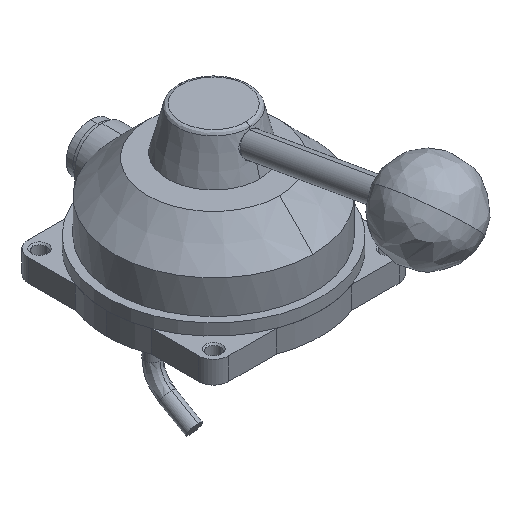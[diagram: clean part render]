
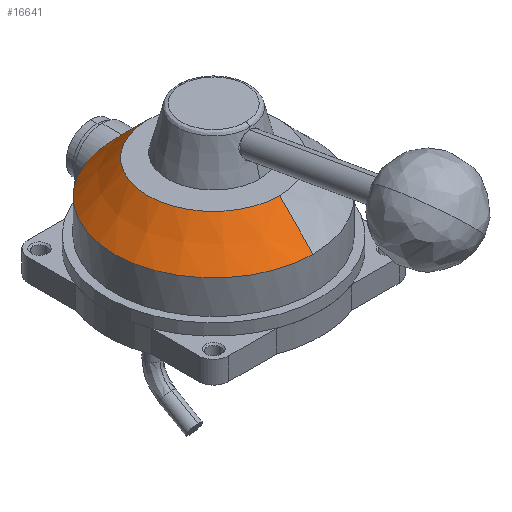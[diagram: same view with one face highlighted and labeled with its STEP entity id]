
A CAD part, isometric view. The second image highlights one B-rep face of the part: STEP entity #16641.
In plain terms, the highlighted conical face has half-angle 45 degrees and reference radius 41.25 mm.
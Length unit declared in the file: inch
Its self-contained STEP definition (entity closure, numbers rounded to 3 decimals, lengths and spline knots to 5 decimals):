
#293 = CARTESIAN_POINT ( 'NONE',  ( -0.22177, 1.5433, 0.81489 ) ) ;
#380 = ORIENTED_EDGE ( 'NONE', *, *, #3461, .T. ) ;
#537 = EDGE_CURVE ( 'NONE', #21802, #1093, #20364, .T. ) ;
#1093 = VERTEX_POINT ( 'NONE', #1184 ) ;
#1184 = CARTESIAN_POINT ( 'NONE',  ( -0.30619, 1.59487, 0.75 ) ) ;
#1841 = CARTESIAN_POINT ( 'NONE',  ( 0., -1.624, 0.75 ) ) ;
#2050 = CARTESIAN_POINT ( 'NONE',  ( -0.18431, 1.52844, 0.83454 ) ) ;
#2338 = VERTEX_POINT ( 'NONE', #4522 ) ;
#3461 = EDGE_CURVE ( 'NONE', #10522, #20881, #7180, .T. ) ;
#3836 = CARTESIAN_POINT ( 'NONE',  ( -0.11765, 1.50978, 0.85992 ) ) ;
#4522 = CARTESIAN_POINT ( 'NONE',  ( 0., 1.499, 0.875 ) ) ;
#5343 = DIRECTION ( 'NONE',  ( 0., 0.707, -0.707 ) ) ;
#5500 = EDGE_CURVE ( 'NONE', #20881, #2338, #10625, .T. ) ;
#5592 = CARTESIAN_POINT ( 'NONE',  ( -0.05953, 1.50171, 0.87119 ) ) ;
#5863 = CARTESIAN_POINT ( 'NONE',  ( 0., 1.624, 0.75 ) ) ;
#6403 = CARTESIAN_POINT ( 'NONE',  ( 0., 0., 0.75 ) ) ;
#7180 = CIRCLE ( 'NONE', #16123, 1.074 ) ;
#7309 = CARTESIAN_POINT ( 'NONE',  ( -0.30619, 1.59487, 0.75 ) ) ;
#7383 = CARTESIAN_POINT ( 'NONE',  ( -0.01501, 1.499, 0.875 ) ) ;
#7519 = AXIS2_PLACEMENT_3D ( 'NONE', #12273, #12324, #12382 ) ;
#7958 = VECTOR ( 'NONE', #13285, 39.37008 ) ;
#8703 = LINE ( 'NONE', #18324, #7958 ) ;
#10522 = VERTEX_POINT ( 'NONE', #21740 ) ;
#10625 = LINE ( 'NONE', #5863, #14272 ) ;
#10780 = CARTESIAN_POINT ( 'NONE',  ( -0.23354, 1.54882, 0.8077 ) ) ;
#10787 = ORIENTED_EDGE ( 'NONE', *, *, #18446, .F. ) ;
#11591 = ORIENTED_EDGE ( 'NONE', *, *, #537, .F. ) ;
#11760 = DIRECTION ( 'NONE',  ( 0., 1., 0. ) ) ;
#11806 = DIRECTION ( 'NONE',  ( 0., 0., -1. ) ) ;
#11809 = CARTESIAN_POINT ( 'NONE',  ( 0., 0., 1.3 ) ) ;
#12236 = B_SPLINE_CURVE_WITH_KNOTS ( 'NONE', 3,
 ( #7309, #17411, #20703, #10780, #293, #12463, #2050, #14128, #3836, #15754, #5592, #17482, #7383, #19138 ),
 .UNSPECIFIED., .F., .F.,
 ( 4, 2, 2, 2, 2, 2, 4 ),
 ( 0., 0.00225, 0.00338, 0.00451, 0.00676, 0.00788, 0.00901 ),
 .UNSPECIFIED. ) ;
#12273 = CARTESIAN_POINT ( 'NONE',  ( 0., 0., 0.75 ) ) ;
#12324 = DIRECTION ( 'NONE',  ( 0., 0., -1. ) ) ;
#12382 = DIRECTION ( 'NONE',  ( 0., 1., 0. ) ) ;
#12463 = CARTESIAN_POINT ( 'NONE',  ( -0.1971, 1.53309, 0.82834 ) ) ;
#13285 = DIRECTION ( 'NONE',  ( 0., -0.707, -0.707 ) ) ;
#13301 = FACE_OUTER_BOUND ( 'NONE', #13637, .T. ) ;
#13637 = EDGE_LOOP ( 'NONE', ( #15111, #380, #21149, #10787, #11591 ) ) ;
#14128 = CARTESIAN_POINT ( 'NONE',  ( -0.1451, 1.51607, 0.85121 ) ) ;
#14272 = VECTOR ( 'NONE', #5343, 39.37008 ) ;
#14635 = EDGE_CURVE ( 'NONE', #10522, #21802, #8703, .T. ) ;
#14868 = DIRECTION ( 'NONE',  ( 0., 0., -1. ) ) ;
#15111 = ORIENTED_EDGE ( 'NONE', *, *, #14635, .F. ) ;
#15754 = CARTESIAN_POINT ( 'NONE',  ( -0.07432, 1.50334, 0.86889 ) ) ;
#16123 = AXIS2_PLACEMENT_3D ( 'NONE', #11809, #11806, #11760 ) ;
#16620 = DIRECTION ( 'NONE',  ( 0., 1., 0. ) ) ;
#16641 = ADVANCED_FACE ( 'NONE', ( #13301 ), #19526, .T. ) ;
#17411 = CARTESIAN_POINT ( 'NONE',  ( -0.28766, 1.57995, 0.76815 ) ) ;
#17482 = CARTESIAN_POINT ( 'NONE',  ( -0.02991, 1.49954, 0.87423 ) ) ;
#18324 = CARTESIAN_POINT ( 'NONE',  ( 0., -1.624, 0.75 ) ) ;
#18446 = EDGE_CURVE ( 'NONE', #1093, #2338, #12236, .T. ) ;
#18872 = AXIS2_PLACEMENT_3D ( 'NONE', #6403, #14868, #16620 ) ;
#18927 = CARTESIAN_POINT ( 'NONE',  ( 0., 1.074, 1.3 ) ) ;
#19138 = CARTESIAN_POINT ( 'NONE',  ( 0., 1.499, 0.875 ) ) ;
#19526 = CONICAL_SURFACE ( 'NONE', #18872, 1.624, 0.785 ) ;
#20364 = CIRCLE ( 'NONE', #7519, 1.624 ) ;
#20703 = CARTESIAN_POINT ( 'NONE',  ( -0.26726, 1.56656, 0.78494 ) ) ;
#20881 = VERTEX_POINT ( 'NONE', #18927 ) ;
#21149 = ORIENTED_EDGE ( 'NONE', *, *, #5500, .T. ) ;
#21740 = CARTESIAN_POINT ( 'NONE',  ( 0., -1.074, 1.3 ) ) ;
#21802 = VERTEX_POINT ( 'NONE', #1841 ) ;
